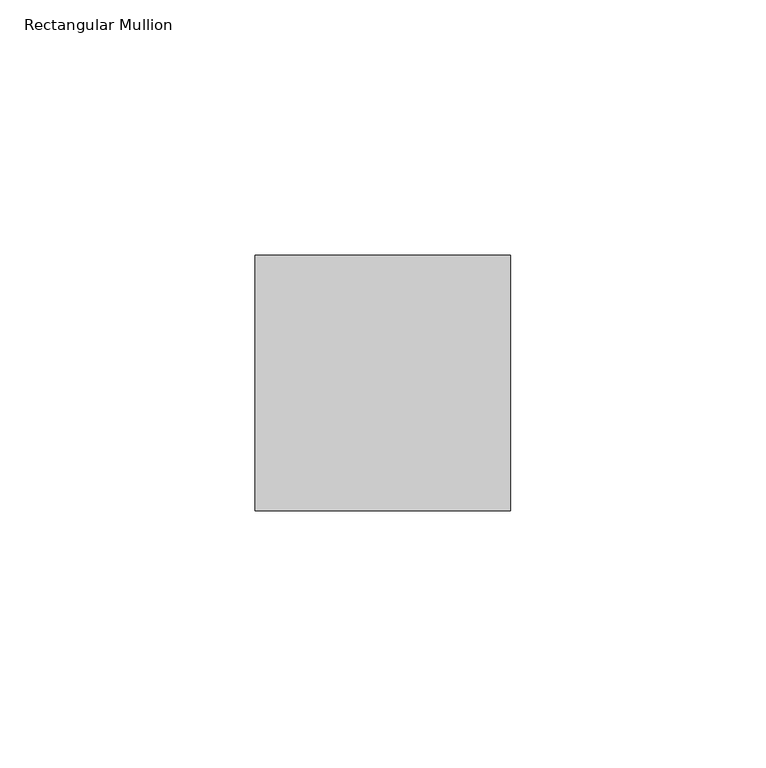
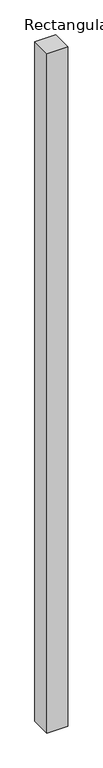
"""IFC4 building model written with IfcOpenShell, lengths in millimetres: member geometry, Rectangular Mullion : Mullion_Curtain Wall_Generic Showcase_50x50mm."""

from ifc_helpers import new_model, si_unit, frame, origin, place, context, project, spatial, polyline, outline, extrude, source, transform, mapped, element, save


def rectangular_mullion_8c95c825(model_context):
    return source(origin(), model_context, "Body", "SweptSolid", [
        extrude(outline(polyline([(25.0, 50.0), (25.0, 0.0), (-25.0, 0.0), (-25.0, 50.0), (25.0, 50.0)])), frame((0.0, 0.0, -1725.0), z_axis=(0.0, 0.0, 1.0), x_axis=(1.0, 0.0, 0.0)), (0.0, 0.0, 1.0), 1725.0),
    ])


if __name__ == "__main__":
    model = new_model("IFC4")
    model_context = context("Model", 3, world=origin())
    ifc_project = project(units=[si_unit("LENGTHUNIT", "METRE", prefix="MILLI")], contexts=[model_context])
    site = spatial("IfcSite", under=ifc_project)
    building = spatial("IfcBuilding", under=site)
    placement = place(None, origin())
    rectangular_mullion_shape = rectangular_mullion_8c95c825(model_context)
    element("IfcMember", 1, ObjectType="Rectangular Mullion : Mullion_Curtain Wall_Generic Showcase_50x50mm", at=placement, inside=building, context=model_context, shape_type="MappedRepresentation", body=[
        mapped(rectangular_mullion_shape, transform((0.0, 0.0, 0.0), x_axis=(1.0, 0.0, 0.0), y_axis=(0.0, 1.0, 0.0), z_axis=(0.0, 0.0, 1.0))),
    ])
    save(model, "model.ifc")
